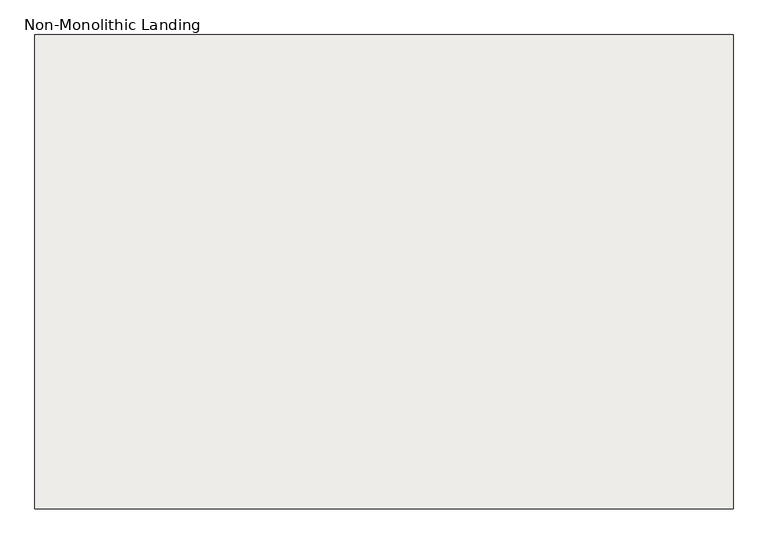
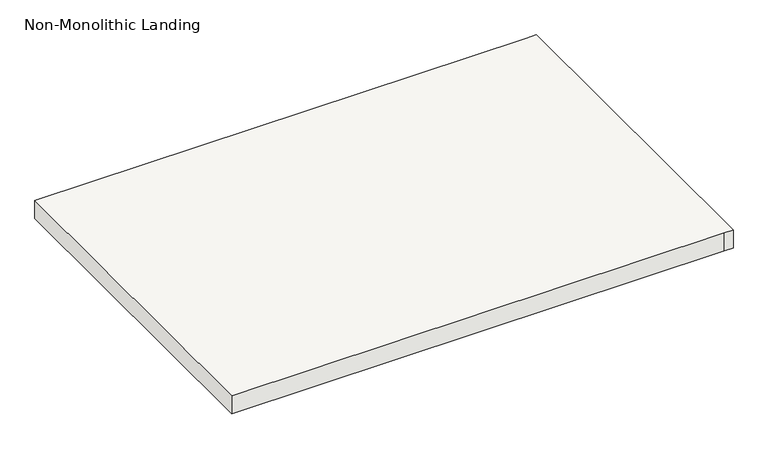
"""IFC4 building model written with IfcOpenShell, lengths in millimetres: slab geometry, Non-Monolithic Landing."""

from ifc_helpers import new_model, si_unit, frame, origin, place, context, project, spatial, polyline, outline, extrude, source, transform, mapped, element, save


def non_monolithic_landing_8f2b5169(model_context):
    return source(origin(), model_context, "Body", "SweptSolid", [
        extrude(outline(polyline([(-20452.9905791, 7438.0177722), (-19132.1905791, 7438.0177722), (-19106.7905791, 7438.0177722), (-19106.7905791, 6523.6177722), (-19132.1905791, 6523.6177722), (-20452.9905791, 6523.6177722), (-20452.9905791, 7438.0177722)])), frame((0.0, 0.0, 2126.3428571), z_axis=(0.0, 0.0, 1.0), x_axis=(1.0, 0.0, 0.0)), (0.0, 0.0, 1.0), 50.8),
    ])


if __name__ == "__main__":
    model = new_model("IFC4")
    model_context = context("Model", 3, world=origin())
    ifc_project = project(units=[si_unit("LENGTHUNIT", "METRE", prefix="MILLI")], contexts=[model_context])
    site = spatial("IfcSite", under=ifc_project)
    building = spatial("IfcBuilding", under=site)
    placement = place(None, origin())
    non_monolithic_landing_shape = non_monolithic_landing_8f2b5169(model_context)
    element("IfcSlab", 1, ObjectType="Non-Monolithic Landing", at=placement, inside=building, context=model_context, shape_type="MappedRepresentation", body=[
        mapped(non_monolithic_landing_shape, transform((0.0, 0.0, 0.0), x_axis=(1.0, 0.0, 0.0), y_axis=(0.0, 1.0, 0.0), z_axis=(0.0, 0.0, 1.0))),
    ])
    save(model, "model.ifc")
